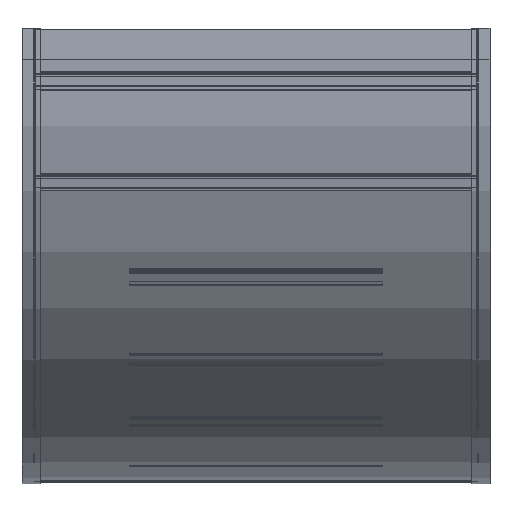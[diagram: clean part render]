
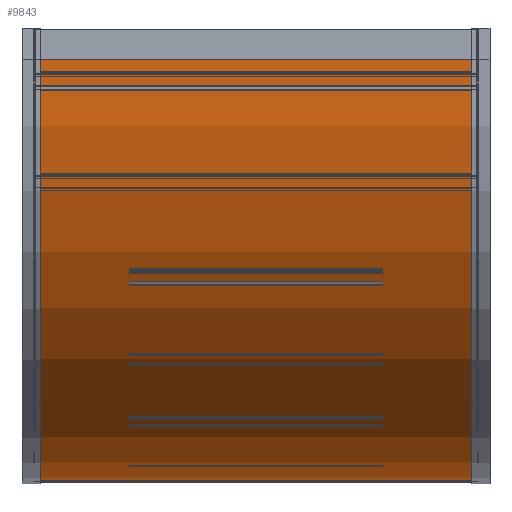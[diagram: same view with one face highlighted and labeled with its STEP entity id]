
A CAD part, front view. The second image highlights one B-rep face of the part: STEP entity #9843.
In plain terms, the highlighted cylindrical face has radius 1017.78 mm (diameter 2035.56 mm), a partial arc.
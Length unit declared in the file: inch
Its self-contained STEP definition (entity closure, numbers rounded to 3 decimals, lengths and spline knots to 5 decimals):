
#9549=CARTESIAN_POINT('',(20.9375,40.03,0.));
#9550=DIRECTION('',(-1.,0.,0.));
#9551=DIRECTION('',(0.,-1.,0.));
#9552=AXIS2_PLACEMENT_3D('',#9549,#9550,#9551);
#9575=CARTESIAN_POINT('',(-20.9375,40.03,0.));
#9576=DIRECTION('',(-1.,0.,0.));
#9577=DIRECTION('',(0.,-1.,0.));
#9578=AXIS2_PLACEMENT_3D('',#9575,#9576,#9577);
#9608=DIRECTION('',(-1.,0.,0.));
#9609=VECTOR('',#9608,41.875);
#9610=CARTESIAN_POINT('',(20.9375,40.03,40.07));
#9611=LINE('',#9610,#9609);
#9612=DIRECTION('',(-1.,0.,0.));
#9613=VECTOR('',#9612,41.875);
#9614=CARTESIAN_POINT('',(20.9375,-0.04,0.));
#9615=LINE('',#9614,#9613);
#9648=CARTESIAN_POINT('',(20.9375,-0.04,0.));
#9650=VERTEX_POINT('',#9648);
#9654=CARTESIAN_POINT('',(-20.9375,-0.04,0.));
#9655=VERTEX_POINT('',#9654);
#9664=CARTESIAN_POINT('',(20.9375,40.03,40.07));
#9665=VERTEX_POINT('',#9664);
#9668=CARTESIAN_POINT('',(-20.9375,40.03,40.07));
#9669=VERTEX_POINT('',#9668);
#9831=CARTESIAN_POINT('',(20.9375,40.03,0.));
#9832=DIRECTION('',(-1.,0.,0.));
#9833=DIRECTION('',(0.,0.,1.));
#9834=AXIS2_PLACEMENT_3D('',#9831,#9832,#9833);
#9835=CYLINDRICAL_SURFACE('',#9834,40.07);
#9836=ORIENTED_EDGE('',*,*,#9711,.F.);
#9838=ORIENTED_EDGE('',*,*,#9837,.T.);
#9839=ORIENTED_EDGE('',*,*,#9768,.T.);
#9840=ORIENTED_EDGE('',*,*,#9823,.F.);
#9841=EDGE_LOOP('',(#9836,#9838,#9839,#9840));
#9842=FACE_OUTER_BOUND('',#9841,.F.);
#9843=ADVANCED_FACE('',(#9842),#9835,.T.);
#9553=CIRCLE('',#9552,40.07);
#9579=CIRCLE('',#9578,40.07);
#9711=EDGE_CURVE('',#9650,#9665,#9553,.T.);
#9768=EDGE_CURVE('',#9655,#9669,#9579,.T.);
#9823=EDGE_CURVE('',#9665,#9669,#9611,.T.);
#9837=EDGE_CURVE('',#9650,#9655,#9615,.T.);
